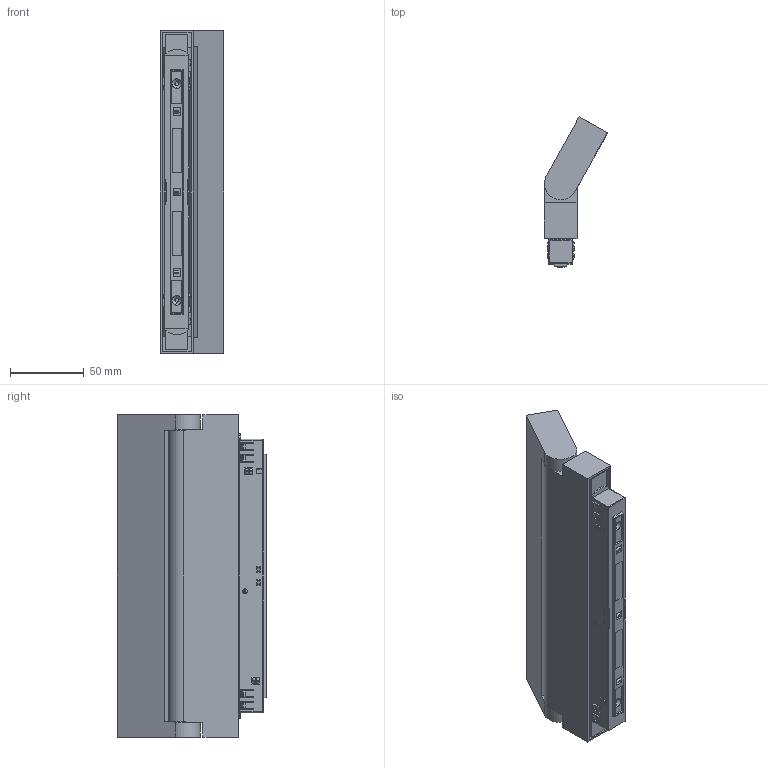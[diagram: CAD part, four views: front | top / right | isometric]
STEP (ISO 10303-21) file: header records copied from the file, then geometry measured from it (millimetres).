
FILE_DESCRIPTION (( 'STEP AP203' ), '1' );
FILE_NAME ('410093.STEP', '2025-04-02T02:05:22', ( '微软用户' ), ( '微软中国' ), 'SwSTEP 2.0', 'SolidWorks 2020', '' );
FILE_SCHEMA (( 'CONFIG_CONTROL_DESIGN' ));
Length unit declared in the file: millimetre
Products named in the file (17): ZHEDIE_GESHAN_ASM_5_ASM; MANIFOLD_SOLID_BREP_1155; MANIFOLD_SOLID_BREP_1145; MANIFOLD_SOLID_BREP_1156; MANIFOLD_SOLID_BREP_1146; 10-07-WJ1; ZHIJIA_2_2; MANIFOLD_SOLID_BREP_1147; 10-08-G1_1; ZHIJIA_0__3; MANIFOLD_SOLID_BREP_1148; 10-10-gk-2; ZHIJIA_XIAGAI_3; MANIFOLD_SOLID_BREP_1149; 410093; 216X19MM_PMMA_2; MANIFOLD_SOLID_BREP_1150
Assembly tree (16 placements, depth 3):
  410093
    ZHEDIE_GESHAN_ASM_5_ASM
      ZHIJIA_2_2
      ZHIJIA_0__3
      ZHIJIA_XIAGAI_3
      216X19MM_PMMA_2
    10-10-gk-2
      MANIFOLD_SOLID_BREP_1145
      MANIFOLD_SOLID_BREP_1146
      MANIFOLD_SOLID_BREP_1147
      MANIFOLD_SOLID_BREP_1148
      MANIFOLD_SOLID_BREP_1149
      MANIFOLD_SOLID_BREP_1150
      MANIFOLD_SOLID_BREP_1155
      MANIFOLD_SOLID_BREP_1156
      10-07-WJ1
      10-08-G1_1
Bounding box: 42.63 x 101.24 x 218 mm (x, y, z)
Volume: 174295.1 mm3; surface area: 143946.9 mm2
Topology: 18 solids, 18 shells, 1320 faces, 3633 edges, 2378 vertices
Faces by surface type: plane 914, cylinder 249, bspline 108, cone 49
Entity records: 54484 total; most frequent: CARTESIAN_POINT 20519, ORIENTED_EDGE 7266, DIRECTION 5681, EDGE_CURVE 3633, VECTOR 2531, LINE 2531, VERTEX_POINT 2378, AXIS2_PLACEMENT_3D 1575
